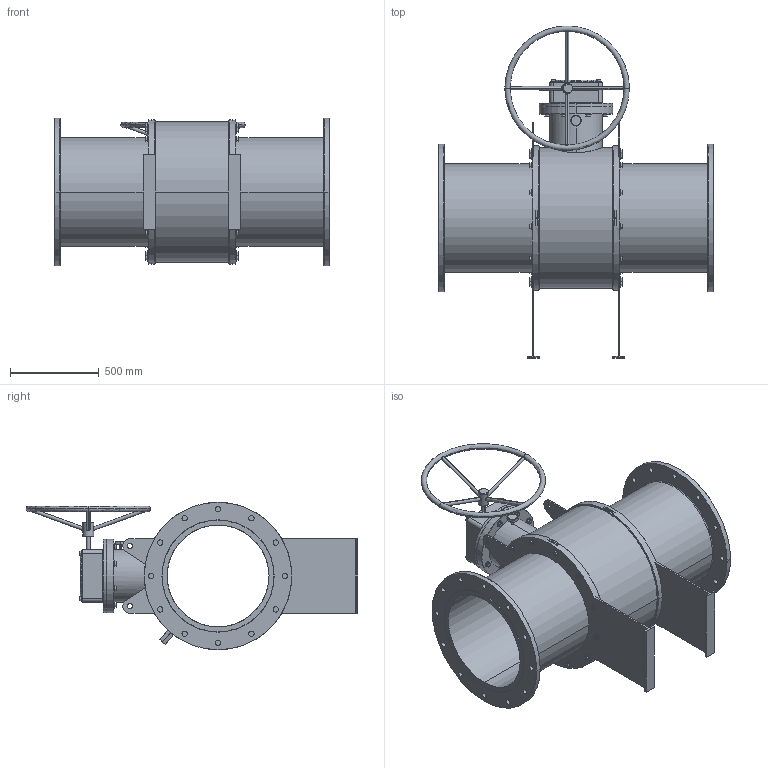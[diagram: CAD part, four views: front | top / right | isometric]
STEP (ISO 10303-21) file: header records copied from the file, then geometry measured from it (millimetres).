
FILE_DESCRIPTION (( 'STEP AP203' ), '1' );
FILE_NAME ('GB2_ANSI_900_24IN_HD.STEP', '2025-10-09T15:15:52', ( '' ), ( '' ), 'SwSTEP 2.0', 'SolidWorks 2025', '' );
FILE_SCHEMA (( 'CONFIG_CONTROL_DESIGN' ));
Length unit declared in the file: millimetre
Products named in the file (3): hex flange screw_am_B18.2.3.4M - Hex flange screw, M16 x 2.0 x 25 --25N; GB2_ANSI_900_24IN_HD; GB2_ANSI_2500_1500_ANSI_900_24IN
Assembly tree (37 placements, depth 2):
  GB2_ANSI_900_24IN_HD
    GB2_ANSI_2500_1500_ANSI_900_24IN
    hex flange screw_am_B18.2.3.4M - Hex flange screw, M16 x 2.0 x 25 --25N  x36
Bounding box: 1549 x 1867 x 831.5 mm (x, y, z)
Volume: 212675692.8 mm3; surface area: 9981792.1 mm2
Topology: 38 solids, 38 shells, 1607 faces, 3640 edges, 2196 vertices
Faces by surface type: plane 530, cone 392, cylinder 297, bspline 286, torus 96, sphere 6
Entity records: 27452 total; most frequent: CARTESIAN_POINT 12057, ORIENTED_EDGE 2932, DIRECTION 2908, EDGE_CURVE 1466, AXIS2_PLACEMENT_3D 1112, VERTEX_POINT 934, EDGE_LOOP 736, VECTOR 684
